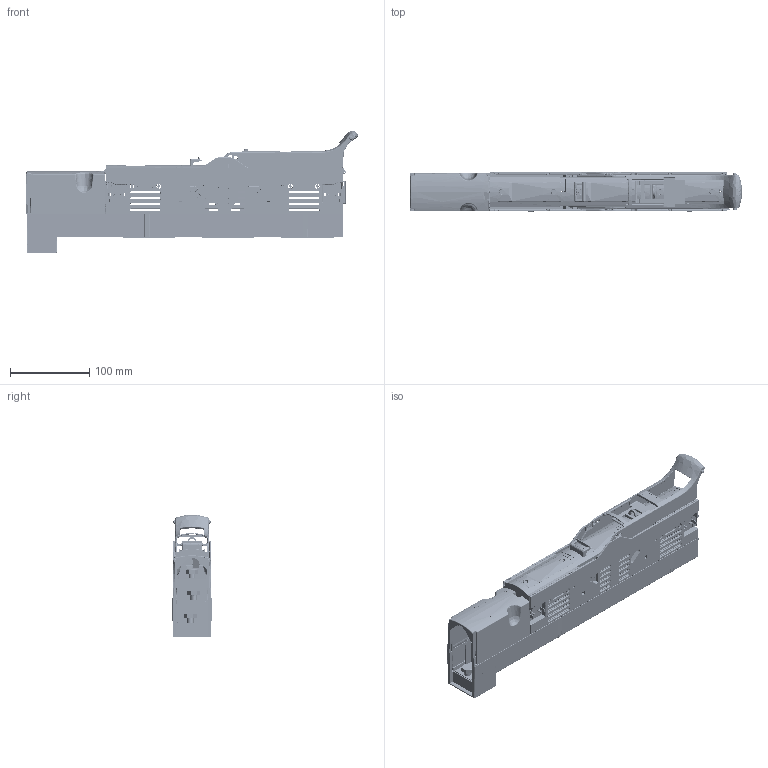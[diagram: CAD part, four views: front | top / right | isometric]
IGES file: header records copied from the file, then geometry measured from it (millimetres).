
Start section: SolidWorks IGES file using analytic representation for surfaces
Global section: file name: U:\14_RD\05_Technical_office\04_Office\Hrdinova\3D modely - IGES\Varius - FSD\FSD00-33K-FC.IGS; native system: SolidWorks 2011; preprocessor: SolidWorks 2011; author: adhrja3; date: 170620.121910; units: millimetre
Bounding box: 419.14 x 49.8 x 154.65 mm (x, y, z)
Surface area: 504599.7 mm2 (no closed solid volume)
Topology: 0 solids, 0 shells, 9886 faces, 79762 edges, 79543 vertices
Faces by surface type: bspline 6107, revolution 3779
